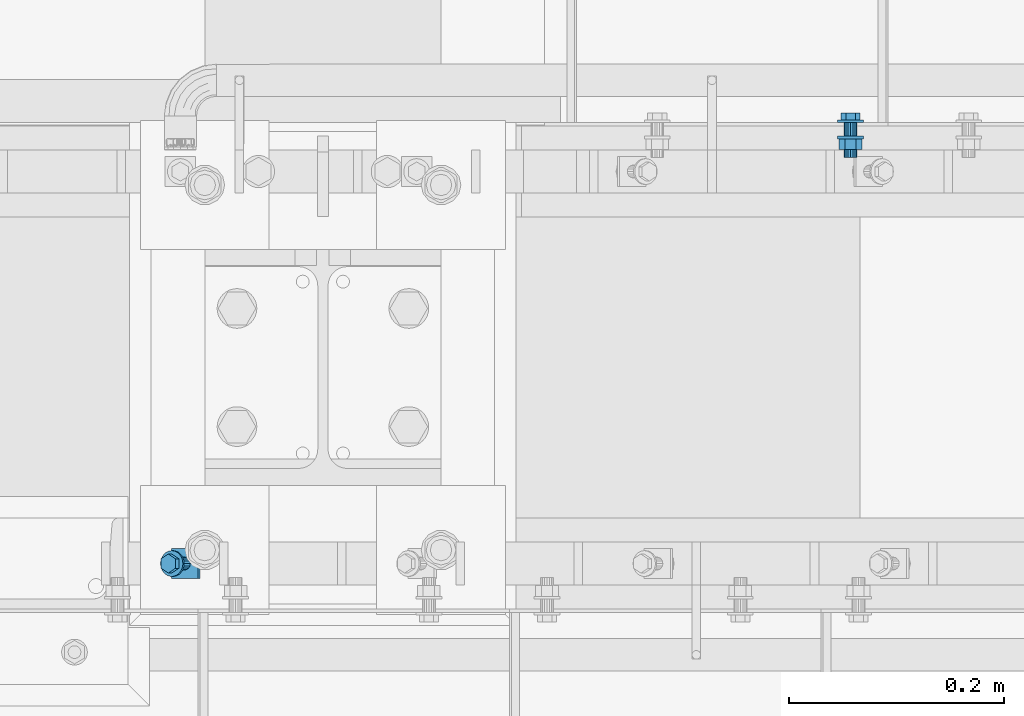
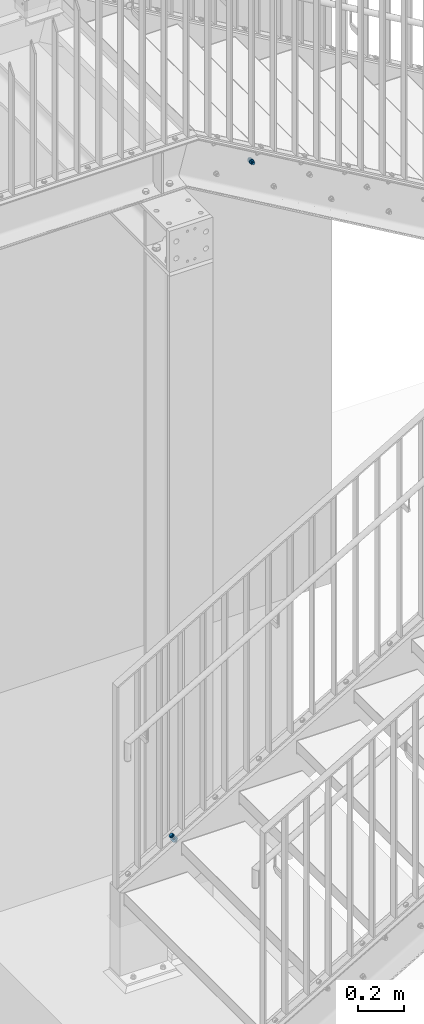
# One storey, part 57 of 145: 2 mechanical fasteners.
"""IFC2X3 building model written with IfcOpenShell, lengths in millimetres."""

from ifc_helpers import new_model, entity, si_unit, converted_unit, origin_with_axes, place, context, project, spatial, faceted_brep, element, save


model = new_model("IFC2X3")

# Units and contexts
model_context = context("Model", 3, precision=1e-09, world=origin_with_axes())
ifc_project = project(units=[si_unit("LENGTHUNIT", "METRE", prefix="MILLI"), si_unit("AREAUNIT", "SQUARE_METRE"), si_unit("VOLUMEUNIT", "CUBIC_METRE"), converted_unit("PLANEANGLEUNIT", "DEGREE", entity("IfcPlaneAngleMeasure", 0.01745329), si_unit("PLANEANGLEUNIT", "RADIAN"), dimensions=[0, 0, 0, 0, 0, 0, 0])], contexts=[model_context])

# Site, building, storey
site_placement = place(None, origin_with_axes())
site = spatial("IfcSite", under=ifc_project, at=site_placement, Name="BZ1 Grund- und Mittelschule 85716 Unterschlei?heim", CompositionType="ELEMENT")
building_placement = place(site_placement, origin_with_axes())
building = spatial("IfcBuilding", under=site, at=building_placement, Name="Struktur 1", CompositionType="ELEMENT")
storey_placement = place(building_placement, origin_with_axes())
storey = spatial("IfcBuildingStorey", under=building, at=storey_placement, Name="Default Storey", CompositionType="ELEMENT", Elevation=0.0)

# Mechanical fasteners
mechanical_fastener_1_placement = place(None, origin_with_axes())
element("IfcMechanicalFastener", 1, at=mechanical_fastener_1_placement, inside=storey, ObjectType="-", NominalDiameter=12.0, NominalLength=35.0, context=model_context, shape_type="Brep", body=[
    faceted_brep([(17562.1419848, -1467.002, 3014.363636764), (17562.1419848, -1464.502, 3014.363636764), (17564.483068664, -1464.502, 3014.594213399), (17564.483068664, -1467.002, 3014.594213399), (17566.734185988, -1464.502, 3015.277082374), (17566.734185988, -1467.002, 3015.277082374), (17568.808827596, -1464.502, 3016.386001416), (17568.808827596, -1467.002, 3016.386001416), (17570.627266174, -1464.502, 3017.878355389), (17570.627266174, -1467.002, 3017.878355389), (17572.119620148, -1464.502, 3019.696793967), (17572.119620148, -1467.002, 3019.696793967), (17573.22853919, -1464.502, 3021.771435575), (17573.22853919, -1467.002, 3021.771435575), (17573.911408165, -1464.502, 3024.022552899), (17573.911408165, -1467.002, 3024.022552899), (17574.1419848, -1464.502, 3026.363636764), (17574.1419848, -1467.002, 3026.363636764), (17573.911408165, -1464.502, 3028.704720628), (17573.911408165, -1467.002, 3028.704720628), (17573.22853919, -1464.502, 3030.955837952), (17573.22853919, -1467.002, 3030.955837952), (17572.119620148, -1464.502, 3033.03047956), (17572.119620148, -1467.002, 3033.03047956), (17570.627266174, -1464.502, 3034.848918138), (17570.627266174, -1467.002, 3034.848918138), (17568.808827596, -1464.502, 3036.341272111), (17568.808827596, -1467.002, 3036.341272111), (17566.734185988, -1464.502, 3037.450191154), (17566.734185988, -1467.002, 3037.450191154), (17564.483068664, -1464.502, 3038.133060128), (17564.483068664, -1467.002, 3038.133060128), (17562.1419848, -1464.502, 3038.363636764), (17562.1419848, -1467.002, 3038.363636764), (17559.800900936, -1464.502, 3038.133060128), (17559.800900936, -1467.002, 3038.133060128), (17557.549783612, -1464.502, 3037.450191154), (17557.549783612, -1467.002, 3037.450191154), (17555.475142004, -1464.502, 3036.341272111), (17555.475142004, -1467.002, 3036.341272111), (17553.656703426, -1464.502, 3034.848918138), (17553.656703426, -1467.002, 3034.848918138), (17552.164349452, -1464.502, 3033.03047956), (17552.164349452, -1467.002, 3033.03047956), (17551.05543041, -1464.502, 3030.955837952), (17551.05543041, -1467.002, 3030.955837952), (17550.372561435, -1464.502, 3028.704720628), (17550.372561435, -1467.002, 3028.704720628), (17550.1419848, -1464.502, 3026.363636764), (17550.1419848, -1467.002, 3026.363636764), (17550.372561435, -1464.502, 3024.022552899), (17550.372561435, -1467.002, 3024.022552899), (17551.05543041, -1464.502, 3021.771435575), (17551.05543041, -1467.002, 3021.771435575), (17552.164349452, -1464.502, 3019.696793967), (17552.164349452, -1467.002, 3019.696793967), (17553.656703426, -1464.502, 3017.878355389), (17553.656703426, -1467.002, 3017.878355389), (17555.475142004, -1464.502, 3016.386001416), (17555.475142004, -1467.002, 3016.386001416), (17557.549783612, -1464.502, 3015.277082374), (17557.549783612, -1467.002, 3015.277082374), (17559.800900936, -1464.502, 3014.594213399), (17559.800900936, -1467.002, 3014.594213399)], [[[0, 1, 2, 3]], [[3, 2, 4, 5]], [[5, 4, 6, 7]], [[7, 6, 8, 9]], [[9, 8, 10, 11]], [[11, 10, 12, 13]], [[13, 12, 14, 15]], [[15, 14, 16, 17]], [[17, 16, 18, 19]], [[19, 18, 20, 21]], [[21, 20, 22, 23]], [[23, 22, 24, 25]], [[25, 24, 26, 27]], [[27, 26, 28, 29]], [[29, 28, 30, 31]], [[31, 30, 32, 33]], [[33, 32, 34, 35]], [[35, 34, 36, 37]], [[37, 36, 38, 39]], [[39, 38, 40, 41]], [[41, 40, 42, 43]], [[43, 42, 44, 45]], [[45, 44, 46, 47]], [[47, 46, 48, 49]], [[49, 48, 50, 51]], [[51, 50, 52, 53]], [[53, 52, 54, 55]], [[55, 54, 56, 57]], [[57, 56, 58, 59]], [[59, 58, 60, 61]], [[61, 60, 62, 63]], [[63, 62, 1, 0]], [[2, 1, 62, 60, 58, 56, 54, 52, 50, 48, 46, 44, 42, 40, 38, 36, 34, 32, 30, 28, 26, 24, 22, 20, 18, 16, 14, 12, 10, 8, 6, 4]], [[63, 0, 3, 5, 7, 9, 11, 13, 15, 17, 19, 21, 23, 25, 27, 29, 31, 33, 35, 37, 39, 41, 43, 45, 47, 49, 51, 53, 55, 57, 59, 61]]]),
    faceted_brep([(17566.5844848, -1458.102, 3034.058272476), (17566.5844848, -1464.502, 3034.058272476), (17571.0269848, -1464.502, 3026.363636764), (17571.0269848, -1458.102, 3026.363636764), (17566.5844848, -1464.502, 3018.669001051), (17566.5844848, -1458.102, 3018.669001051), (17557.6994848, -1464.502, 3018.669001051), (17557.6994848, -1458.102, 3018.669001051), (17553.2569848, -1464.502, 3026.363636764), (17553.2569848, -1458.102, 3026.363636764), (17557.6994848, -1464.502, 3034.058272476), (17557.6994848, -1458.102, 3034.058272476)], [[[0, 1, 2, 3]], [[3, 2, 4, 5]], [[5, 4, 6, 7]], [[7, 6, 8, 9]], [[9, 8, 10, 11]], [[11, 10, 1, 0]], [[3, 5, 7, 9, 11, 0]], [[2, 1, 10, 8, 6, 4]]]),
    faceted_brep([(17562.1419848, -1479.502, 3020.363636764), (17562.1419848, -1467.002, 3020.363636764), (17564.438085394, -1467.002, 3020.820359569), (17564.438085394, -1479.502, 3020.820359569), (17566.384625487, -1467.002, 3022.120996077), (17566.384625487, -1479.502, 3022.120996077), (17567.685261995, -1467.002, 3024.067536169), (17567.685261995, -1479.502, 3024.067536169), (17568.1419848, -1467.002, 3026.363636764), (17568.1419848, -1479.502, 3026.363636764), (17567.685261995, -1467.002, 3028.659737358), (17567.685261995, -1479.502, 3028.659737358), (17566.384625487, -1467.002, 3030.606277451), (17566.384625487, -1479.502, 3030.606277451), (17564.438085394, -1467.002, 3031.906913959), (17564.438085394, -1479.502, 3031.906913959), (17562.1419848, -1467.002, 3032.363636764), (17562.1419848, -1479.502, 3032.363636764), (17559.845884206, -1467.002, 3031.906913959), (17559.845884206, -1479.502, 3031.906913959), (17557.899344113, -1467.002, 3030.606277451), (17557.899344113, -1479.502, 3030.606277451), (17556.598707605, -1467.002, 3028.659737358), (17556.598707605, -1479.502, 3028.659737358), (17556.1419848, -1467.002, 3026.363636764), (17556.1419848, -1479.502, 3026.363636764), (17556.598707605, -1467.002, 3024.067536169), (17556.598707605, -1479.502, 3024.067536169), (17557.899344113, -1467.002, 3022.120996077), (17557.899344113, -1479.502, 3022.120996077), (17559.845884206, -1467.002, 3020.820359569), (17559.845884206, -1479.502, 3020.820359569)], [[[0, 1, 2, 3]], [[3, 2, 4, 5]], [[5, 4, 6, 7]], [[7, 6, 8, 9]], [[9, 8, 10, 11]], [[11, 10, 12, 13]], [[13, 12, 14, 15]], [[15, 14, 16, 17]], [[17, 16, 18, 19]], [[19, 18, 20, 21]], [[21, 20, 22, 23]], [[23, 22, 24, 25]], [[25, 24, 26, 27]], [[27, 26, 28, 29]], [[29, 28, 30, 31]], [[31, 30, 1, 0]], [[2, 1, 30, 28, 26, 24, 22, 20, 18, 16, 14, 12, 10, 8, 6, 4]], [[31, 0, 3, 5, 7, 9, 11, 13, 15, 17, 19, 21, 23, 25, 27, 29]]]),
    faceted_brep([(17562.1419848, -1482.002, 3014.363636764), (17562.1419848, -1479.502, 3014.363636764), (17564.483068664, -1479.502, 3014.594213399), (17564.483068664, -1482.002, 3014.594213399), (17566.734185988, -1479.502, 3015.277082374), (17566.734185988, -1482.002, 3015.277082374), (17568.808827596, -1479.502, 3016.386001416), (17568.808827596, -1482.002, 3016.386001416), (17570.627266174, -1479.502, 3017.878355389), (17570.627266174, -1482.002, 3017.878355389), (17572.119620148, -1479.502, 3019.696793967), (17572.119620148, -1482.002, 3019.696793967), (17573.22853919, -1479.502, 3021.771435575), (17573.22853919, -1482.002, 3021.771435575), (17573.911408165, -1479.502, 3024.022552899), (17573.911408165, -1482.002, 3024.022552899), (17574.1419848, -1479.502, 3026.363636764), (17574.1419848, -1482.002, 3026.363636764), (17573.911408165, -1479.502, 3028.704720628), (17573.911408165, -1482.002, 3028.704720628), (17573.22853919, -1479.502, 3030.955837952), (17573.22853919, -1482.002, 3030.955837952), (17572.119620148, -1479.502, 3033.03047956), (17572.119620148, -1482.002, 3033.03047956), (17570.627266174, -1479.502, 3034.848918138), (17570.627266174, -1482.002, 3034.848918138), (17568.808827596, -1479.502, 3036.341272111), (17568.808827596, -1482.002, 3036.341272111), (17566.734185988, -1479.502, 3037.450191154), (17566.734185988, -1482.002, 3037.450191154), (17564.483068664, -1479.502, 3038.133060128), (17564.483068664, -1482.002, 3038.133060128), (17562.1419848, -1479.502, 3038.363636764), (17562.1419848, -1482.002, 3038.363636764), (17559.800900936, -1479.502, 3038.133060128), (17559.800900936, -1482.002, 3038.133060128), (17557.549783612, -1479.502, 3037.450191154), (17557.549783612, -1482.002, 3037.450191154), (17555.475142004, -1479.502, 3036.341272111), (17555.475142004, -1482.002, 3036.341272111), (17553.656703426, -1479.502, 3034.848918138), (17553.656703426, -1482.002, 3034.848918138), (17552.164349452, -1479.502, 3033.03047956), (17552.164349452, -1482.002, 3033.03047956), (17551.05543041, -1479.502, 3030.955837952), (17551.05543041, -1482.002, 3030.955837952), (17550.372561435, -1479.502, 3028.704720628), (17550.372561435, -1482.002, 3028.704720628), (17550.1419848, -1479.502, 3026.363636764), (17550.1419848, -1482.002, 3026.363636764), (17550.372561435, -1479.502, 3024.022552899), (17550.372561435, -1482.002, 3024.022552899), (17551.05543041, -1479.502, 3021.771435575), (17551.05543041, -1482.002, 3021.771435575), (17552.164349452, -1479.502, 3019.696793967), (17552.164349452, -1482.002, 3019.696793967), (17553.656703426, -1479.502, 3017.878355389), (17553.656703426, -1482.002, 3017.878355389), (17555.475142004, -1479.502, 3016.386001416), (17555.475142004, -1482.002, 3016.386001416), (17557.549783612, -1479.502, 3015.277082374), (17557.549783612, -1482.002, 3015.277082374), (17559.800900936, -1479.502, 3014.594213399), (17559.800900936, -1482.002, 3014.594213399)], [[[0, 1, 2, 3]], [[3, 2, 4, 5]], [[5, 4, 6, 7]], [[7, 6, 8, 9]], [[9, 8, 10, 11]], [[11, 10, 12, 13]], [[13, 12, 14, 15]], [[15, 14, 16, 17]], [[17, 16, 18, 19]], [[19, 18, 20, 21]], [[21, 20, 22, 23]], [[23, 22, 24, 25]], [[25, 24, 26, 27]], [[27, 26, 28, 29]], [[29, 28, 30, 31]], [[31, 30, 32, 33]], [[33, 32, 34, 35]], [[35, 34, 36, 37]], [[37, 36, 38, 39]], [[39, 38, 40, 41]], [[41, 40, 42, 43]], [[43, 42, 44, 45]], [[45, 44, 46, 47]], [[47, 46, 48, 49]], [[49, 48, 50, 51]], [[51, 50, 52, 53]], [[53, 52, 54, 55]], [[55, 54, 56, 57]], [[57, 56, 58, 59]], [[59, 58, 60, 61]], [[61, 60, 62, 63]], [[63, 62, 1, 0]], [[2, 1, 62, 60, 58, 56, 54, 52, 50, 48, 46, 44, 42, 40, 38, 36, 34, 32, 30, 28, 26, 24, 22, 20, 18, 16, 14, 12, 10, 8, 6, 4]], [[63, 0, 3, 5, 7, 9, 11, 13, 15, 17, 19, 21, 23, 25, 27, 29, 31, 33, 35, 37, 39, 41, 43, 45, 47, 49, 51, 53, 55, 57, 59, 61]]]),
    faceted_brep([(17567.4169848, -1482.002, 3035.500204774), (17567.4169848, -1492.002, 3035.500204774), (17572.6919848, -1492.002, 3026.363636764), (17572.6919848, -1482.002, 3026.363636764), (17567.4169848, -1492.002, 3017.227068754), (17567.4169848, -1482.002, 3017.227068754), (17556.8669848, -1492.002, 3017.227068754), (17556.8669848, -1482.002, 3017.227068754), (17551.5919848, -1492.002, 3026.363636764), (17551.5919848, -1482.002, 3026.363636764), (17556.8669848, -1492.002, 3035.500204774), (17556.8669848, -1482.002, 3035.500204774)], [[[0, 1, 2, 3]], [[3, 2, 4, 5]], [[5, 4, 6, 7]], [[7, 6, 8, 9]], [[9, 8, 10, 11]], [[11, 10, 1, 0]], [[3, 5, 7, 9, 11, 0]], [[2, 1, 10, 8, 6, 4]]]),
    faceted_brep([(17562.1419848, -1499.502, 3020.363636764), (17562.1419848, -1492.002, 3020.363636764), (17564.438085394, -1492.002, 3020.820359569), (17564.438085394, -1499.502, 3020.820359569), (17566.384625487, -1492.002, 3022.120996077), (17566.384625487, -1499.502, 3022.120996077), (17567.685261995, -1492.002, 3024.067536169), (17567.685261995, -1499.502, 3024.067536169), (17568.1419848, -1492.002, 3026.363636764), (17568.1419848, -1499.502, 3026.363636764), (17567.685261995, -1492.002, 3028.659737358), (17567.685261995, -1499.502, 3028.659737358), (17566.384625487, -1492.002, 3030.606277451), (17566.384625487, -1499.502, 3030.606277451), (17564.438085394, -1492.002, 3031.906913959), (17564.438085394, -1499.502, 3031.906913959), (17562.1419848, -1492.002, 3032.363636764), (17562.1419848, -1499.502, 3032.363636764), (17559.845884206, -1492.002, 3031.906913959), (17559.845884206, -1499.502, 3031.906913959), (17557.899344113, -1492.002, 3030.606277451), (17557.899344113, -1499.502, 3030.606277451), (17556.598707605, -1492.002, 3028.659737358), (17556.598707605, -1499.502, 3028.659737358), (17556.1419848, -1492.002, 3026.363636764), (17556.1419848, -1499.502, 3026.363636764), (17556.598707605, -1492.002, 3024.067536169), (17556.598707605, -1499.502, 3024.067536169), (17557.899344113, -1492.002, 3022.120996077), (17557.899344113, -1499.502, 3022.120996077), (17559.845884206, -1492.002, 3020.820359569), (17559.845884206, -1499.502, 3020.820359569)], [[[0, 1, 2, 3]], [[3, 2, 4, 5]], [[5, 4, 6, 7]], [[7, 6, 8, 9]], [[9, 8, 10, 11]], [[11, 10, 12, 13]], [[13, 12, 14, 15]], [[15, 14, 16, 17]], [[17, 16, 18, 19]], [[19, 18, 20, 21]], [[21, 20, 22, 23]], [[23, 22, 24, 25]], [[25, 24, 26, 27]], [[27, 26, 28, 29]], [[29, 28, 30, 31]], [[31, 30, 1, 0]], [[2, 1, 30, 28, 26, 24, 22, 20, 18, 16, 14, 12, 10, 8, 6, 4]], [[31, 0, 3, 5, 7, 9, 11, 13, 15, 17, 19, 21, 23, 25, 27, 29]]]),
])
mechanical_fastener_2_placement = place(None, origin_with_axes())
element("IfcMechanicalFastener", 2, at=mechanical_fastener_2_placement, inside=storey, ObjectType="-", NominalDiameter=12.0, NominalLength=45.0, context=model_context, shape_type="Brep", body=[
    faceted_brep([(16920.949497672, -1877.502, -113.009179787), (16919.692769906, -1877.502, -110.848014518), (16919.892095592, -1875.160916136, -110.732105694), (16921.148823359, -1875.160916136, -112.893270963), (16920.482412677, -1872.909798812, -110.388833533), (16921.739140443, -1872.909798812, -112.549998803), (16921.441035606, -1870.835157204, -109.831389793), (16922.697763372, -1870.835157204, -111.992555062), (16922.731125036, -1869.016718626, -109.081196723), (16923.987852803, -1869.016718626, -111.242361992), (16924.303103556, -1867.524364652, -108.167083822), (16925.559831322, -1867.524364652, -110.328249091), (16926.096560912, -1866.41544561, -107.124179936), (16927.353288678, -1866.41544561, -109.285345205), (16928.042575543, -1865.732576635, -105.992563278), (16929.299303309, -1865.732576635, -108.153728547), (16930.066363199, -1865.502, -104.815721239), (16931.323090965, -1865.502, -106.976886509), (16932.090150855, -1865.732576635, -103.638879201), (16933.346878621, -1865.732576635, -105.80004447), (16934.036165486, -1866.41544561, -102.507262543), (16935.292893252, -1866.41544561, -104.668427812), (16935.829622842, -1867.524364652, -101.464358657), (16937.086350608, -1867.524364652, -103.625523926), (16937.401601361, -1869.016718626, -100.550245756), (16938.658329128, -1869.016718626, -102.711411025), (16938.691690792, -1870.835157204, -99.800052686), (16939.948418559, -1870.835157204, -101.961217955), (16939.650313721, -1872.909798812, -99.242608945), (16940.907041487, -1872.909798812, -101.403774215), (16940.240630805, -1875.160916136, -98.899336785), (16941.497358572, -1875.160916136, -101.060502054), (16940.439956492, -1877.502, -98.783427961), (16941.696684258, -1877.502, -100.94459323), (16940.240630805, -1879.843083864, -98.899336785), (16941.497358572, -1879.843083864, -101.060502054), (16939.650313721, -1882.094201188, -99.242608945), (16940.907041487, -1882.094201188, -101.403774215), (16938.691690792, -1884.168842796, -99.800052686), (16939.948418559, -1884.168842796, -101.961217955), (16937.401601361, -1885.987281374, -100.550245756), (16938.658329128, -1885.987281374, -102.711411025), (16935.829622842, -1887.479635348, -101.464358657), (16937.086350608, -1887.479635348, -103.625523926), (16934.036165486, -1888.58855439, -102.507262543), (16935.292893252, -1888.58855439, -104.668427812), (16932.090150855, -1889.271423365, -103.638879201), (16933.346878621, -1889.271423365, -105.80004447), (16930.066363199, -1889.502, -104.815721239), (16931.323090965, -1889.502, -106.976886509), (16928.042575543, -1889.271423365, -105.992563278), (16929.299303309, -1889.271423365, -108.153728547), (16926.096560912, -1888.58855439, -107.124179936), (16927.353288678, -1888.58855439, -109.285345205), (16924.303103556, -1887.479635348, -108.167083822), (16925.559831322, -1887.479635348, -110.328249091), (16922.731125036, -1885.987281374, -109.081196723), (16923.987852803, -1885.987281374, -111.242361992), (16921.441035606, -1884.168842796, -109.831389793), (16922.697763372, -1884.168842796, -111.992555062), (16920.482412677, -1882.094201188, -110.388833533), (16921.739140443, -1882.094201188, -112.549998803), (16919.892095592, -1879.843083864, -110.732105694), (16921.148823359, -1879.843083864, -112.893270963)], [[[0, 1, 2, 3]], [[3, 2, 4, 5]], [[5, 4, 6, 7]], [[7, 6, 8, 9]], [[9, 8, 10, 11]], [[11, 10, 12, 13]], [[13, 12, 14, 15]], [[15, 14, 16, 17]], [[17, 16, 18, 19]], [[19, 18, 20, 21]], [[21, 20, 22, 23]], [[23, 22, 24, 25]], [[25, 24, 26, 27]], [[27, 26, 28, 29]], [[29, 28, 30, 31]], [[31, 30, 32, 33]], [[33, 32, 34, 35]], [[35, 34, 36, 37]], [[37, 36, 38, 39]], [[39, 38, 40, 41]], [[41, 40, 42, 43]], [[43, 42, 44, 45]], [[45, 44, 46, 47]], [[47, 46, 48, 49]], [[49, 48, 50, 51]], [[51, 50, 52, 53]], [[53, 52, 54, 55]], [[55, 54, 56, 57]], [[57, 56, 58, 59]], [[59, 58, 60, 61]], [[61, 60, 62, 63]], [[63, 62, 1, 0]], [[2, 1, 62, 60, 58, 56, 54, 52, 50, 48, 46, 44, 42, 40, 38, 36, 34, 32, 30, 28, 26, 24, 22, 20, 18, 16, 14, 12, 10, 8, 6, 4]], [[63, 0, 3, 5, 7, 9, 11, 13, 15, 17, 19, 21, 23, 25, 27, 29, 31, 33, 35, 37, 39, 41, 43, 45, 47, 49, 51, 53, 55, 57, 59, 61]]]),
    faceted_brep([(16933.500891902, -1873.0595, -95.415113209), (16936.718114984, -1873.0595, -100.947696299), (16930.066363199, -1868.617, -104.815721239), (16926.849140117, -1868.617, -99.28313815), (16923.414611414, -1873.0595, -108.68374618), (16920.197388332, -1873.0595, -103.151163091), (16923.414611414, -1881.9445, -108.68374618), (16920.197388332, -1881.9445, -103.151163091), (16930.066363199, -1886.387, -104.815721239), (16926.849140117, -1886.387, -99.28313815), (16936.718114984, -1881.9445, -100.947696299), (16933.500891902, -1881.9445, -95.415113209)], [[[0, 1, 2, 3]], [[3, 2, 4, 5]], [[5, 4, 6, 7]], [[7, 6, 8, 9]], [[9, 8, 10, 11]], [[11, 10, 1, 0]], [[3, 5, 7, 9, 11, 0]], [[2, 1, 10, 8, 6, 4]]]),
    faceted_brep([(16937.036056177, -1877.502, -128.737098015), (16926.136294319, -1877.502, -109.993033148), (16926.531115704, -1875.205899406, -109.763442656), (16937.430877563, -1875.205899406, -128.507507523), (16927.655471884, -1873.259359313, -109.10962425), (16938.555233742, -1873.259359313, -127.853689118), (16929.338189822, -1871.958722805, -108.131115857), (16940.23795168, -1871.958722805, -126.875180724), (16931.323090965, -1871.502, -106.976886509), (16942.222852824, -1871.502, -125.720951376), (16933.307992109, -1871.958722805, -105.82265716), (16944.207753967, -1871.958722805, -124.566722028), (16934.990710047, -1873.259359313, -104.844148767), (16945.890471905, -1873.259359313, -123.588213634), (16936.115066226, -1875.205899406, -104.190330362), (16947.014828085, -1875.205899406, -122.934395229), (16936.509887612, -1877.502, -103.96073987), (16947.40964947, -1877.502, -122.704804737), (16936.115066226, -1879.798100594, -104.190330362), (16947.014828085, -1879.798100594, -122.934395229), (16934.990710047, -1881.744640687, -104.844148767), (16945.890471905, -1881.744640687, -123.588213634), (16933.307992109, -1883.045277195, -105.82265716), (16944.207753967, -1883.045277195, -124.566722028), (16931.323090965, -1883.502, -106.976886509), (16942.222852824, -1883.502, -125.720951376), (16929.338189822, -1883.045277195, -108.131115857), (16940.23795168, -1883.045277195, -126.875180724), (16927.655471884, -1881.744640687, -109.10962425), (16938.555233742, -1881.744640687, -127.853689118), (16926.531115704, -1879.798100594, -109.763442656), (16937.430877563, -1879.798100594, -128.507507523)], [[[0, 1, 2, 3]], [[3, 2, 4, 5]], [[5, 4, 6, 7]], [[7, 6, 8, 9]], [[9, 8, 10, 11]], [[11, 10, 12, 13]], [[13, 12, 14, 15]], [[15, 14, 16, 17]], [[17, 16, 18, 19]], [[19, 18, 20, 21]], [[21, 20, 22, 23]], [[23, 22, 24, 25]], [[25, 24, 26, 27]], [[27, 26, 28, 29]], [[29, 28, 30, 31]], [[31, 30, 1, 0]], [[2, 1, 30, 28, 26, 24, 22, 20, 18, 16, 14, 12, 10, 8, 6, 4]], [[31, 0, 3, 5, 7, 9, 11, 13, 15, 17, 19, 21, 23, 25, 27, 29]]]),
    faceted_brep([(16954.448249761, -1863.359864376, -118.611825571), (16956.459014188, -1863.359864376, -122.069690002), (16932.008220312, -1863.359864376, -136.287941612), (16929.997455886, -1863.359864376, -132.830077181), (16932.008220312, -1891.644135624, -136.287941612), (16929.997455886, -1891.644135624, -132.830077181), (16956.459014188, -1891.644135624, -122.069690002), (16954.448249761, -1891.644135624, -118.611825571)], [[[0, 1, 2, 3]], [[3, 2, 4, 5]], [[5, 4, 6, 7]], [[7, 6, 1, 0]], [[3, 5, 7, 0]], [[2, 1, 6, 4]]]),
    faceted_brep([(16952.131870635, -1872.227, -124.585944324), (16957.158781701, -1872.227, -133.230605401), (16949.260528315, -1866.952, -137.823476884), (16944.23361725, -1866.952, -129.178815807), (16941.36227493, -1872.227, -142.416348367), (16936.335363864, -1872.227, -133.77168729), (16941.36227493, -1882.777, -142.416348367), (16936.335363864, -1882.777, -133.77168729), (16949.260528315, -1888.052, -137.823476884), (16944.23361725, -1888.052, -129.178815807), (16957.158781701, -1882.777, -133.230605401), (16952.131870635, -1882.777, -124.585944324)], [[[0, 1, 2, 3]], [[3, 2, 4, 5]], [[5, 4, 6, 7]], [[7, 6, 8, 9]], [[9, 8, 10, 11]], [[11, 10, 1, 0]], [[3, 5, 7, 9, 11, 0]], [[2, 1, 10, 8, 6, 4]]]),
    faceted_brep([(16947.500666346, -1877.502, -146.732842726), (16944.073731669, -1877.502, -140.839623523), (16944.468553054, -1875.205899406, -140.610033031), (16947.895487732, -1875.205899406, -146.503252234), (16945.592909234, -1873.259359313, -139.956214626), (16949.019843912, -1873.259359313, -145.849433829), (16947.275627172, -1871.958722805, -138.977706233), (16950.702561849, -1871.958722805, -144.870925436), (16949.260528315, -1871.502, -137.823476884), (16952.687462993, -1871.502, -143.716696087), (16951.245429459, -1871.958722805, -136.669247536), (16954.672364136, -1871.958722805, -142.562466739), (16952.928147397, -1873.259359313, -135.690739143), (16956.355082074, -1873.259359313, -141.583958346), (16954.052503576, -1875.205899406, -135.036920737), (16957.479438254, -1875.205899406, -140.93013994), (16954.447324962, -1877.502, -134.807330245), (16957.874259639, -1877.502, -140.700549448), (16954.052503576, -1879.798100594, -135.036920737), (16957.479438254, -1879.798100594, -140.93013994), (16952.928147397, -1881.744640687, -135.690739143), (16956.355082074, -1881.744640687, -141.583958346), (16951.245429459, -1883.045277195, -136.669247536), (16954.672364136, -1883.045277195, -142.562466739), (16949.260528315, -1883.502, -137.823476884), (16952.687462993, -1883.502, -143.716696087), (16947.275627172, -1883.045277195, -138.977706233), (16950.702561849, -1883.045277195, -144.870925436), (16945.592909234, -1881.744640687, -139.956214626), (16949.019843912, -1881.744640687, -145.849433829), (16944.468553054, -1879.798100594, -140.610033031), (16947.895487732, -1879.798100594, -146.503252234)], [[[0, 1, 2, 3]], [[3, 2, 4, 5]], [[5, 4, 6, 7]], [[7, 6, 8, 9]], [[9, 8, 10, 11]], [[11, 10, 12, 13]], [[13, 12, 14, 15]], [[15, 14, 16, 17]], [[17, 16, 18, 19]], [[19, 18, 20, 21]], [[21, 20, 22, 23]], [[23, 22, 24, 25]], [[25, 24, 26, 27]], [[27, 26, 28, 29]], [[29, 28, 30, 31]], [[31, 30, 1, 0]], [[2, 1, 30, 28, 26, 24, 22, 20, 18, 16, 14, 12, 10, 8, 6, 4]], [[31, 0, 3, 5, 7, 9, 11, 13, 15, 17, 19, 21, 23, 25, 27, 29]]]),
])

save(model, "model.ifc")
